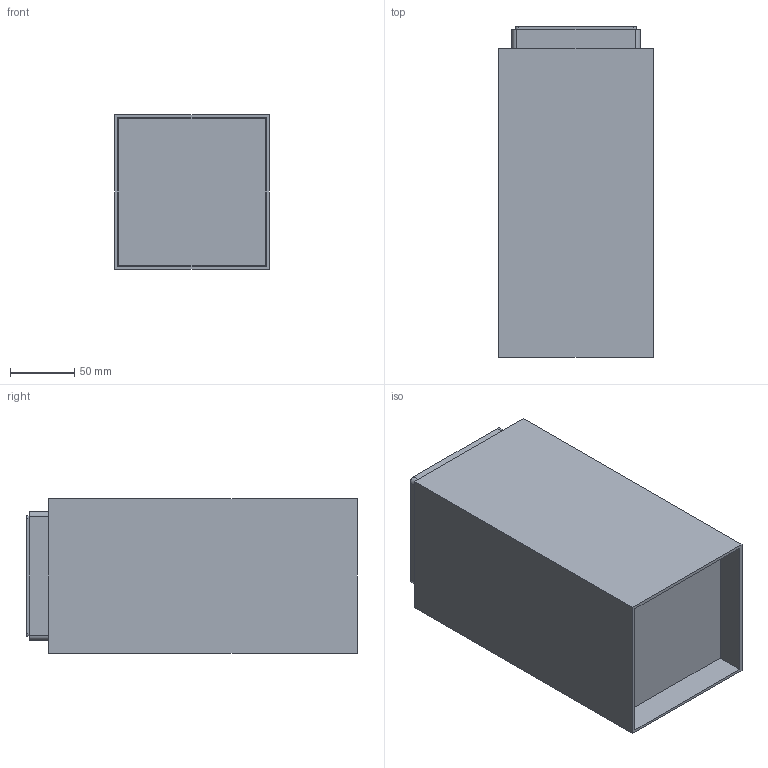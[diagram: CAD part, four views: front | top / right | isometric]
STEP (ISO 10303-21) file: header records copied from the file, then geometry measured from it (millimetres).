
FILE_DESCRIPTION (( 'STEP AP214' ), '1' );
FILE_NAME ('3D_PRISMA.STEP', '2018-03-01T15:14:27', ( 'Utente' ), ( '' ), 'SwSTEP 2.0', 'SolidWorks 2016', '' );
FILE_SCHEMA (( 'AUTOMOTIVE_DESIGN' ));
Length unit declared in the file: millimetre
Products named in the file (4): 010PRI700210_Corpo prismaMARTI-1^3D_PRISMA; 3D_PRISMA; 010PRI700100_Estruso Al Quadro 120MARTI-1^3D_PRISMA; Diffusore+paracolpiMARTI-1^3D_PRISMA
Assembly tree (3 placements, depth 2):
  3D_PRISMA
    010PRI700210_Corpo prismaMARTI-1^3D_PRISMA
    Diffusore+paracolpiMARTI-1^3D_PRISMA
    010PRI700100_Estruso Al Quadro 120MARTI-1^3D_PRISMA
Bounding box: 120 x 257 x 120 mm (x, y, z)
Surface area: 404346.6 mm2
Topology: 3 solids, 3 shells, 64 faces, 156 edges, 104 vertices
Faces by surface type: plane 48, cylinder 16
Entity records: 2026 total; most frequent: CARTESIAN_POINT 330, DIRECTION 328, ORIENTED_EDGE 312, EDGE_CURVE 156, VECTOR 124, LINE 124, VERTEX_POINT 104, AXIS2_PLACEMENT_3D 102
